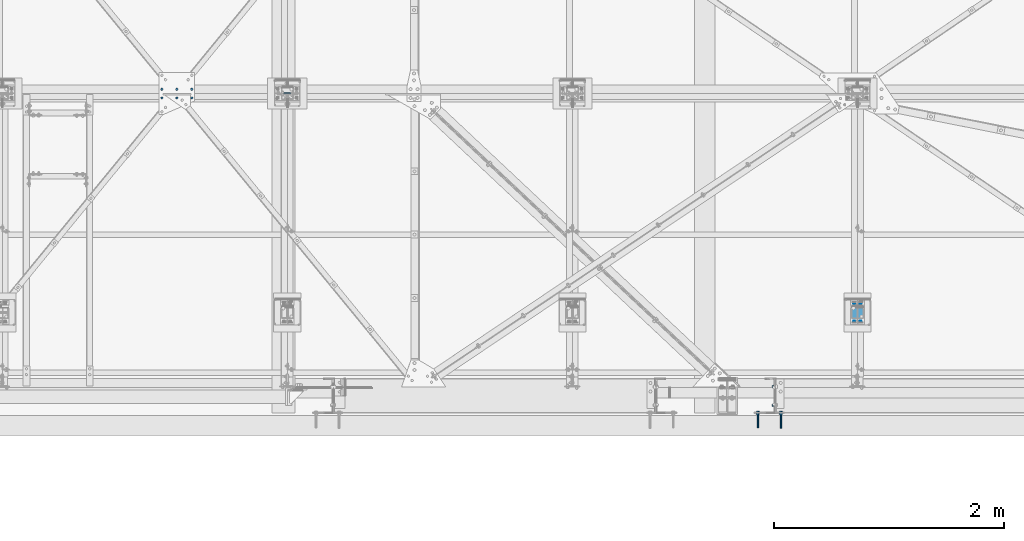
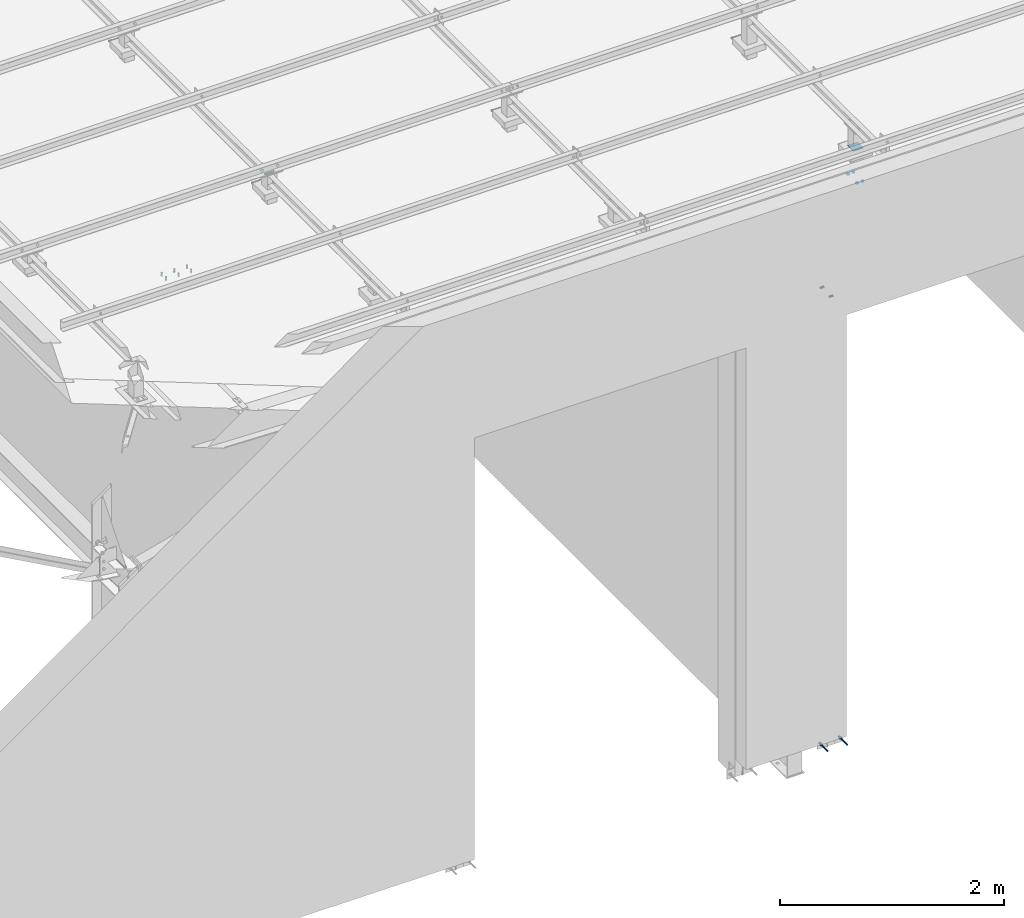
# One storey, part 311 of 3134: 7 mechanical fasteners, 6 elements without a shape of their own.
"""IFC2X3 building model written with IfcOpenShell, lengths in millimetres."""

from ifc_helpers import new_model, si_unit, frame, origin_with_axes, place, context, subcontext, project, spatial, faceted_brep, source, transform, mapped, material, type_object, element, aggregate, save


model = new_model("IFC2X3")

# Units and contexts
model_context = context("Model", 3, precision=1e-05, world=origin_with_axes())
body_context = subcontext(model_context, "Body", "Model", "MODEL_VIEW")
ifc_project = project(units=[si_unit("LENGTHUNIT", "METRE", prefix="MILLI"), si_unit("AREAUNIT", "SQUARE_METRE"), si_unit("VOLUMEUNIT", "CUBIC_METRE"), si_unit("MASSUNIT", "GRAM", prefix="KILO"), si_unit("TIMEUNIT", "SECOND"), si_unit("PLANEANGLEUNIT", "RADIAN"), si_unit("SOLIDANGLEUNIT", "STERADIAN"), si_unit("THERMODYNAMICTEMPERATUREUNIT", "DEGREE_CELSIUS"), si_unit("LUMINOUSINTENSITYUNIT", "LUMEN")], contexts=[model_context])

# Site, building, storey
site_placement = place(None, origin_with_axes())
site = spatial("IfcSite", under=ifc_project, at=site_placement, CompositionType="ELEMENT")
building_placement = place(site_placement, origin_with_axes())
building = spatial("IfcBuilding", under=site, at=building_placement, Name="Undefined", CompositionType="ELEMENT")
storey_placement = place(building_placement, origin_with_axes())
storey = spatial("IfcBuildingStorey", under=building, at=storey_placement, Name="Undefined", CompositionType="ELEMENT", Elevation=0.0)

# Assembly, mechanical fasteners
assembly_1_placement = place(storey_placement, origin_with_axes())
assembly_1 = element("IfcElementAssembly", 1, at=assembly_1_placement, inside=storey, AssemblyPlace="NOTDEFINED", PredefinedType="RIGID_FRAME")
ifc_material_1 = material(Name="HILTI-HSA")
mechanical_fastener_type = type_object("IfcMechanicalFastenerType", Name="Bolt assembly")
shared_shape_1 = source(origin_with_axes(), body_context, "Body", "Brep", [
    faceted_brep([(13.856406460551, -20.56, 0.0), (6.92820323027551, -20.56, 12.0), (-6.92820323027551, -20.56, 12.0), (-13.856406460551, -20.56, 1.69692038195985e-15), (-6.92820323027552, -20.56, -12.0), (6.9282032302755, -20.56, -12.0), (6.9282032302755, -10.0, -12.0), (-6.92820323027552, -10.0, -12.0), (-13.856406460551, -10.0, 1.69692038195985e-15), (-6.92820323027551, -10.0, 12.0), (6.92820323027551, -10.0, 12.0), (13.856406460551, -10.0, 0.0), (8.0, -10.0, 0.0), (6.92820323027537, -10.0, 4.00000000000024), (3.99999999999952, -10.0, 6.92820323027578), (-8.29068785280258e-13, -10.0, 8.0), (-4.00000000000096, -10.0, 6.92820323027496), (-6.9282032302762, -10.0, 3.99999999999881), (-8.0, -10.0, -1.65813757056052e-12), (-6.92820323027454, -10.0, -4.00000000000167), (-3.99999999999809, -10.0, -6.92820323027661), (2.47832457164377e-12, -10.0, -8.0), (4.00000000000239, -10.0, -6.92820323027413), (6.92820323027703, -10.0, -3.99999999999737), (6.92820323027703, 130.0, -3.99999999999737), (4.00000000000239, 130.0, -6.92820323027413), (2.47832457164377e-12, 130.0, -8.0), (-3.99999999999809, 130.0, -6.92820323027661), (-6.92820323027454, 130.0, -4.00000000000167), (-8.0, 130.0, -1.65813757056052e-12), (-6.9282032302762, 130.0, 3.99999999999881), (-4.00000000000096, 130.0, 6.92820323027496), (-8.29068785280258e-13, 130.0, 8.0), (3.99999999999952, 130.0, 6.92820323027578), (6.92820323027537, 130.0, 4.00000000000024), (8.0, 130.0, 0.0), (15.3344231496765, 7.105427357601e-15, 0.0), (7.66721157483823, 7.105427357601e-15, 13.28), (-7.66721157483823, 7.105427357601e-15, 13.28), (-15.3344231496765, 7.105427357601e-15, 1.87792522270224e-15), (-7.66721157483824, 7.105427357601e-15, -13.28), (7.66721157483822, 7.105427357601e-15, -13.28), (7.66721157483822, 10.56, -13.28), (-7.66721157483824, 10.56, -13.28), (-15.3344231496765, 10.56, 1.87792522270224e-15), (-7.66721157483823, 10.56, 13.28), (7.66721157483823, 10.56, 13.28), (15.3344231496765, 10.56, 0.0)], [[[0, 1, 2, 3, 4, 5]], [[6, 7, 8, 9, 10, 11]], [[0, 11, 10, 1]], [[1, 10, 9, 2]], [[2, 9, 8, 3]], [[3, 8, 7, 4]], [[4, 7, 6, 5]], [[5, 6, 11, 0]], [[12, 13, 14, 15, 16, 17, 18, 19, 20, 21, 22, 23]], [[24, 25, 26, 27, 28, 29, 30, 31, 32, 33, 34, 35]], [[12, 35, 34, 13]], [[13, 34, 33, 14]], [[14, 33, 32, 15]], [[15, 32, 31, 16]], [[16, 31, 30, 17]], [[17, 30, 29, 18]], [[18, 29, 28, 19]], [[19, 28, 27, 20]], [[20, 27, 26, 21]], [[21, 26, 25, 22]], [[22, 25, 24, 23]], [[23, 24, 35, 12]], [[36, 37, 38, 39, 40, 41]], [[42, 43, 44, 45, 46, 47]], [[36, 47, 46, 37]], [[37, 46, 45, 38]], [[38, 45, 44, 39]], [[39, 44, 43, 40]], [[40, 43, 42, 41]], [[41, 42, 47, 36]]]),
    faceted_brep([(9.0, -10.0, 0.0), (7.79422863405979, -10.0, 4.50000000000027), (4.49999999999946, -10.0, 7.79422863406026), (-9.3270238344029e-13, -10.0, 9.0), (-4.50000000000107, -10.0, 7.79422863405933), (-7.79422863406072, -10.0, 4.49999999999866), (-9.0, -10.0, -1.86540476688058e-12), (-7.79422863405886, -10.0, -4.50000000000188), (-4.49999999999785, -10.0, -7.79422863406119), (2.78811514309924e-12, -10.0, -9.0), (4.50000000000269, -10.0, -7.7942286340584), (7.79422863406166, -10.0, -4.49999999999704), (7.79422863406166, 0.100000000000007, -4.49999999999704), (4.50000000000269, 0.100000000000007, -7.7942286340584), (2.78811514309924e-12, 0.100000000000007, -9.0), (-4.49999999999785, 0.100000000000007, -7.79422863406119), (-7.79422863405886, 0.100000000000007, -4.50000000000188), (-9.0, 0.100000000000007, -1.86540476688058e-12), (-7.79422863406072, 0.100000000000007, 4.49999999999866), (-4.50000000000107, 0.100000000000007, 7.79422863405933), (-9.3270238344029e-13, 0.100000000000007, 9.0), (4.49999999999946, 0.100000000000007, 7.79422863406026), (7.79422863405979, 0.100000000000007, 4.50000000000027), (9.0, 0.100000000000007, 0.0)], [[[0, 1, 2, 3, 4, 5, 6, 7, 8, 9, 10, 11]], [[12, 13, 14, 15, 16, 17, 18, 19, 20, 21, 22, 23]], [[0, 23, 22, 1]], [[1, 22, 21, 2]], [[2, 21, 20, 3]], [[3, 20, 19, 4]], [[4, 19, 18, 5]], [[5, 18, 17, 6]], [[6, 17, 16, 7]], [[7, 16, 15, 8]], [[8, 15, 14, 9]], [[9, 14, 13, 10]], [[10, 13, 12, 11]], [[11, 12, 23, 0]]]),
])
mechanical_fastener_1_placement = place(assembly_1_placement, frame((74685.0, -225.0, -150.0), z_axis=(0.0, 0.0, -1.0), x_axis=(1.0, 0.0, 0.0)))
mechanical_fastener_1 = element("IfcMechanicalFastener", 2, at=mechanical_fastener_1_placement, type_object=mechanical_fastener_type, material=ifc_material_1, Name="Bolt assembly", NominalDiameter=16.0, NominalLength=140.0, context=body_context, shape_type="MappedRepresentation", body=[
    mapped(shared_shape_1, transform((0.0, 0.0, 0.0))),
])
shared_shape_2 = source(origin_with_axes(), body_context, "Body", "Brep", [
    faceted_brep([(13.856406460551, -18.56, 0.0), (6.92820323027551, -18.56, 12.0), (-6.92820323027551, -18.56, 12.0), (-13.856406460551, -18.56, 1.69692038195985e-15), (-6.92820323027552, -18.56, -12.0), (6.9282032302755, -18.56, -12.0), (6.9282032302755, -7.99999766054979, -12.0), (-6.92820323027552, -7.99999766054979, -12.0), (-13.856406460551, -7.99999766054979, 1.69692038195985e-15), (-6.92820323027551, -7.99999766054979, 12.0), (6.92820323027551, -7.99999766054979, 12.0), (13.856406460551, -7.99999766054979, 0.0), (8.0, -8.0, 0.0), (6.92820323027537, -8.0, 4.00000000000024), (3.99999999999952, -8.0, 6.92820323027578), (-8.29068785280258e-13, -8.0, 8.0), (-4.00000000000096, -8.0, 6.92820323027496), (-6.9282032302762, -8.0, 3.99999999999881), (-8.0, -8.0, -1.65813757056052e-12), (-6.92820323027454, -8.0, -4.00000000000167), (-3.99999999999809, -8.0, -6.92820323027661), (2.47832457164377e-12, -8.0, -8.0), (4.00000000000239, -8.0, -6.92820323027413), (6.92820323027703, -8.0, -3.99999999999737), (6.92820323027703, 132.0, -3.99999999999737), (4.00000000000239, 132.0, -6.92820323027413), (2.47832457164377e-12, 132.0, -8.0), (-3.99999999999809, 132.0, -6.92820323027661), (-6.92820323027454, 132.0, -4.00000000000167), (-8.0, 132.0, -1.65813757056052e-12), (-6.9282032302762, 132.0, 3.99999999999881), (-4.00000000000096, 132.0, 6.92820323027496), (-8.29068785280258e-13, 132.0, 8.0), (3.99999999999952, 132.0, 6.92820323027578), (6.92820323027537, 132.0, 4.00000000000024), (8.0, 132.0, 0.0), (15.3344231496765, 7.105427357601e-15, 0.0), (7.66721157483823, 7.105427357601e-15, 13.28), (-7.66721157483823, 7.105427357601e-15, 13.28), (-15.3344231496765, 7.105427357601e-15, 1.87792522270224e-15), (-7.66721157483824, 7.105427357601e-15, -13.28), (7.66721157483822, 7.105427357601e-15, -13.28), (7.66721157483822, 10.56, -13.28), (-7.66721157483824, 10.56, -13.28), (-15.3344231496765, 10.56, 1.87792522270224e-15), (-7.66721157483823, 10.56, 13.28), (7.66721157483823, 10.56, 13.28), (15.3344231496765, 10.56, 0.0)], [[[0, 1, 2, 3, 4, 5]], [[6, 7, 8, 9, 10, 11]], [[0, 11, 10, 1]], [[1, 10, 9, 2]], [[2, 9, 8, 3]], [[3, 8, 7, 4]], [[4, 7, 6, 5]], [[5, 6, 11, 0]], [[12, 13, 14, 15, 16, 17, 18, 19, 20, 21, 22, 23]], [[24, 25, 26, 27, 28, 29, 30, 31, 32, 33, 34, 35]], [[12, 35, 34, 13]], [[13, 34, 33, 14]], [[14, 33, 32, 15]], [[15, 32, 31, 16]], [[16, 31, 30, 17]], [[17, 30, 29, 18]], [[18, 29, 28, 19]], [[19, 28, 27, 20]], [[20, 27, 26, 21]], [[21, 26, 25, 22]], [[22, 25, 24, 23]], [[23, 24, 35, 12]], [[36, 37, 38, 39, 40, 41]], [[42, 43, 44, 45, 46, 47]], [[36, 47, 46, 37]], [[37, 46, 45, 38]], [[38, 45, 44, 39]], [[39, 44, 43, 40]], [[40, 43, 42, 41]], [[41, 42, 47, 36]]]),
    faceted_brep([(9.0, -8.0, 0.0), (7.79422863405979, -8.0, 4.50000000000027), (4.49999999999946, -8.0, 7.79422863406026), (-9.3270238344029e-13, -8.0, 9.0), (-4.50000000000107, -8.0, 7.79422863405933), (-7.79422863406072, -8.0, 4.49999999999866), (-9.0, -8.0, -1.86540476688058e-12), (-7.79422863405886, -8.0, -4.50000000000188), (-4.49999999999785, -8.0, -7.79422863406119), (2.78811514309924e-12, -8.0, -9.0), (4.50000000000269, -8.0, -7.7942286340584), (7.79422863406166, -8.0, -4.49999999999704), (7.79422863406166, 0.100000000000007, -4.49999999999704), (4.50000000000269, 0.100000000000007, -7.7942286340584), (2.78811514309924e-12, 0.100000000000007, -9.0), (-4.49999999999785, 0.100000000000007, -7.79422863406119), (-7.79422863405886, 0.100000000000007, -4.50000000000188), (-9.0, 0.100000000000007, -1.86540476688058e-12), (-7.79422863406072, 0.100000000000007, 4.49999999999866), (-4.50000000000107, 0.100000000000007, 7.79422863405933), (-9.3270238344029e-13, 0.100000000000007, 9.0), (4.49999999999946, 0.100000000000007, 7.79422863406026), (7.79422863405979, 0.100000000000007, 4.50000000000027), (9.0, 0.100000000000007, 0.0)], [[[0, 1, 2, 3, 4, 5, 6, 7, 8, 9, 10, 11]], [[12, 13, 14, 15, 16, 17, 18, 19, 20, 21, 22, 23]], [[0, 23, 22, 1]], [[1, 22, 21, 2]], [[2, 21, 20, 3]], [[3, 20, 19, 4]], [[4, 19, 18, 5]], [[5, 18, 17, 6]], [[6, 17, 16, 7]], [[7, 16, 15, 8]], [[8, 15, 14, 9]], [[9, 14, 13, 10]], [[10, 13, 12, 11]], [[11, 12, 23, 0]]]),
])
mechanical_fastener_2_placement = place(assembly_1_placement, frame((74885.0, -225.0, -150.0), z_axis=(0.0, 0.0, 1.0), x_axis=(-1.0, 0.0, 0.0)))
mechanical_fastener_2 = element("IfcMechanicalFastener", 3, at=mechanical_fastener_2_placement, type_object=mechanical_fastener_type, material=ifc_material_1, Name="Bolt assembly", NominalDiameter=16.0, NominalLength=140.0, context=body_context, shape_type="MappedRepresentation", body=[
    mapped(shared_shape_2, transform((0.0, 0.0, 0.0))),
])
aggregate(assembly_1, [mechanical_fastener_2, mechanical_fastener_1])

# Assembly, mechanical fastener
assembly_2_placement = place(storey_placement, origin_with_axes())
assembly_2 = element("IfcElementAssembly", 4, at=assembly_2_placement, inside=storey, AssemblyPlace="NOTDEFINED", PredefinedType="RIGID_FRAME")
ifc_material_2 = material(Name="8.8")
shared_shape_3 = source(origin_with_axes(), body_context, "Body", "Brep", [
    faceted_brep([(7.0, 13.0000253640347, 0.0), (6.06217782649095, 13.0000253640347, 3.50000000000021), (3.49999999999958, 13.0000253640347, 6.06217782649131), (-7.25435187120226e-13, 13.0000253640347, 7.0), (-3.50000000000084, 13.0000253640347, 6.06217782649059), (-6.06217782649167, 13.0000253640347, 3.49999999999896), (-7.0, 13.0000253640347, -1.45087037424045e-12), (-6.06217782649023, 13.0000253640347, -3.50000000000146), (-3.49999999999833, 13.0000253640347, -6.06217782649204), (2.1685340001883e-12, 13.0000253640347, -7.0), (3.50000000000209, 13.0000253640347, -6.06217782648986), (6.0621778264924, 13.0000253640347, -3.4999999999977), (6.0621778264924, 15.0999999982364, -3.4999999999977), (3.50000000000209, 15.0999999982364, -6.06217782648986), (2.1685340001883e-12, 15.0999999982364, -7.0), (-3.49999999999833, 15.0999999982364, -6.06217782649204), (-6.06217782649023, 15.0999999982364, -3.50000000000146), (-7.0, 15.0999999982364, -1.45087037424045e-12), (-6.06217782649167, 15.0999999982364, 3.49999999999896), (-3.50000000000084, 15.0999999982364, 6.06217782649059), (-7.25435187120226e-13, 15.0999999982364, 7.0), (3.49999999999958, 15.0999999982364, 6.06217782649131), (6.06217782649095, 15.0999999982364, 3.50000000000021), (7.0, 15.0999999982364, 0.0)], [[[0, 1, 2, 3, 4, 5, 6, 7, 8, 9, 10, 11]], [[12, 13, 14, 15, 16, 17, 18, 19, 20, 21, 22, 23]], [[0, 23, 22, 1]], [[1, 22, 21, 2]], [[2, 21, 20, 3]], [[3, 20, 19, 4]], [[4, 19, 18, 5]], [[5, 18, 17, 6]], [[6, 17, 16, 7]], [[7, 16, 15, 8]], [[8, 15, 14, 9]], [[9, 14, 13, 10]], [[10, 13, 12, 11]], [[11, 12, 23, 0]]]),
])
mechanical_fastener_3_placement = place(assembly_2_placement, frame((75521.3602034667, 649.998364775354, 5179.86493090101), z_axis=(0.0, -1.0, 0.0), x_axis=(0.999519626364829, 0.0, -0.030992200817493)))
mechanical_fastener_3 = element("IfcMechanicalFastener", 5, at=mechanical_fastener_3_placement, type_object=mechanical_fastener_type, material=ifc_material_2, Name="Bolt assembly", NominalDiameter=12.0, NominalLength=2.0, context=body_context, shape_type="MappedRepresentation", body=[
    mapped(shared_shape_3, transform((0.0, -5.32963895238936e-10, -79.9999999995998))),
    mapped(shared_shape_3, transform((55.9999999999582, 4.54747350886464e-13, -80.0))),
    mapped(shared_shape_3, transform((0.0, 5.3114490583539e-10, 79.9999999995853))),
    mapped(shared_shape_3, transform((55.9999999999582, 4.54747350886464e-13, 80.0))),
])
aggregate(assembly_2, [mechanical_fastener_3])

assembly_3_placement = place(storey_placement, origin_with_axes())
assembly_3 = element("IfcElementAssembly", 6, at=assembly_3_placement, inside=storey, AssemblyPlace="NOTDEFINED", PredefinedType="RIGID_FRAME")
shared_shape_4 = source(origin_with_axes(), body_context, "Body", "Brep", [
    faceted_brep([(9.0, -50.0, 0.0), (7.79422863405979, -50.0, 4.50000000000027), (4.49999999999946, -50.0, 7.79422863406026), (-9.3270238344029e-13, -50.0, 9.0), (-4.50000000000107, -50.0, 7.79422863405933), (-7.79422863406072, -50.0, 4.49999999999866), (-9.0, -50.0, -1.86540476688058e-12), (-7.79422863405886, -50.0, -4.50000000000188), (-4.49999999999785, -50.0, -7.79422863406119), (2.78811514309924e-12, -50.0, -9.0), (4.50000000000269, -50.0, -7.7942286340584), (7.79422863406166, -50.0, -4.49999999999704), (7.79422863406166, 50.1, -4.49999999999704), (4.50000000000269, 50.1, -7.7942286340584), (2.78811514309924e-12, 50.1, -9.0), (-4.49999999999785, 50.1, -7.79422863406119), (-7.79422863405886, 50.1, -4.50000000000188), (-9.0, 50.1, -1.86540476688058e-12), (-7.79422863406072, 50.1, 4.49999999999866), (-4.50000000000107, 50.1, 7.79422863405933), (-9.3270238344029e-13, 50.1, 9.0), (4.49999999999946, 50.1, 7.79422863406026), (7.79422863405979, 50.1, 4.50000000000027), (9.0, 50.1, 0.0)], [[[0, 1, 2, 3, 4, 5, 6, 7, 8, 9, 10, 11]], [[12, 13, 14, 15, 16, 17, 18, 19, 20, 21, 22, 23]], [[0, 23, 22, 1]], [[1, 22, 21, 2]], [[2, 21, 20, 3]], [[3, 20, 19, 4]], [[4, 19, 18, 5]], [[5, 18, 17, 6]], [[6, 17, 16, 7]], [[7, 16, 15, 8]], [[8, 15, 14, 9]], [[9, 14, 13, 10]], [[10, 13, 12, 11]], [[11, 12, 23, 0]]]),
])
mechanical_fastener_4_placement = place(assembly_3_placement, frame((70600.0, 2550.0, 5830.0), z_axis=(0.0, 1.0, 0.0), x_axis=(0.0, 0.0, 1.0)))
mechanical_fastener_4 = element("IfcMechanicalFastener", 7, at=mechanical_fastener_4_placement, type_object=mechanical_fastener_type, material=ifc_material_2, Name="Bolt assembly", NominalDiameter=16.0, NominalLength=100.0, context=body_context, shape_type="MappedRepresentation", body=[
    mapped(shared_shape_4, transform((0.0, 0.0, 0.0))),
])
aggregate(assembly_3, [mechanical_fastener_4])

assembly_4_placement = place(storey_placement, origin_with_axes())
assembly_4 = element("IfcElementAssembly", 8, at=assembly_4_placement, inside=storey, AssemblyPlace="NOTDEFINED", PredefinedType="RIGID_FRAME")
ifc_material_3 = material(Name="6.8")
shared_shape_5 = source(origin_with_axes(), body_context, "Body", "Brep", [
    faceted_brep([(51.5, 1.36424205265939e-12, 50.0), (51.3858192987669, 1.36424205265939e-12, 50.5740251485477), (51.0606601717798, 1.36424205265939e-12, 51.0606601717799), (50.5740251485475, 1.36424205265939e-12, 51.385819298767), (-50.0000000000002, 1.36424205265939e-12, 51.5), (-50.7500000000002, 1.36424205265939e-12, 51.2990381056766), (-51.2990381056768, 1.36424205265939e-12, 50.7499999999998), (-51.5, 1.36424205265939e-12, 49.9999999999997), (-51.5, 1.36424205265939e-12, -50.0000000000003), (-51.2990381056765, 1.36424205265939e-12, -50.7500000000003), (-50.7499999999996, 1.36424205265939e-12, -51.2990381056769), (-49.9999999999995, 1.36424205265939e-12, -51.5), (50.0000000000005, 1.36424205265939e-12, -51.5), (50.7500000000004, 1.36424205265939e-12, -51.2990381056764), (51.2990381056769, 1.36424205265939e-12, -50.7499999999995), (51.5, 1.36424205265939e-12, -49.9999999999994), (51.5, 5.10000000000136, -49.9999999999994), (51.2990381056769, 5.10000000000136, -50.7499999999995), (50.7500000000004, 5.10000000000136, -51.2990381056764), (50.0000000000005, 5.10000000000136, -51.5), (-49.9999999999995, 5.10000000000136, -51.5), (-50.7499999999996, 5.10000000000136, -51.2990381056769), (-51.2990381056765, 5.10000000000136, -50.7500000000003), (-51.5, 5.10000000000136, -50.0000000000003), (-51.5, 5.10000000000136, 49.9999999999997), (-51.2990381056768, 5.10000000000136, 50.7499999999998), (-50.7500000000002, 5.10000000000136, 51.2990381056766), (-50.0000000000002, 5.10000000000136, 51.5), (50.5740251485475, 5.10000000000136, 51.385819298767), (51.0606601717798, 5.10000000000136, 51.0606601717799), (51.3858192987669, 5.10000000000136, 50.5740251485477), (51.5, 5.10000000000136, 50.0)], [[[0, 1, 2, 3, 4, 5, 6, 7, 8, 9, 10, 11, 12, 13, 14, 15]], [[16, 17, 18, 19, 20, 21, 22, 23, 24, 25, 26, 27, 28, 29, 30, 31]], [[0, 31, 30, 1]], [[1, 30, 29, 2]], [[2, 29, 28, 3]], [[3, 28, 27, 4]], [[4, 27, 26, 5]], [[5, 26, 25, 6]], [[6, 25, 24, 7]], [[7, 24, 23, 8]], [[8, 23, 22, 9]], [[9, 22, 21, 10]], [[10, 21, 20, 11]], [[11, 20, 19, 12]], [[12, 19, 18, 13]], [[13, 18, 17, 14]], [[14, 17, 16, 15]], [[15, 16, 31, 0]]]),
])
mechanical_fastener_5_placement = place(assembly_4_placement, frame((75550.0, 650.0, 5533.71), z_axis=(0.0, -1.0, 0.0), x_axis=(-1.0, 0.0, 0.0)))
mechanical_fastener_5 = element("IfcMechanicalFastener", 9, at=mechanical_fastener_5_placement, type_object=mechanical_fastener_type, material=ifc_material_3, Name="Bolt assembly", NominalDiameter=10.0, NominalLength=5.0, context=body_context, shape_type="MappedRepresentation", body=[
    mapped(shared_shape_5, transform((0.0, 0.0, 0.0))),
])
aggregate(assembly_4, [mechanical_fastener_5])

assembly_5_placement = place(storey_placement, origin_with_axes())
assembly_5 = element("IfcElementAssembly", 10, at=assembly_5_placement, inside=storey, AssemblyPlace="NOTDEFINED", PredefinedType="RIGID_FRAME")
shared_shape_6 = source(origin_with_axes(), body_context, "Body", "Brep", [
    faceted_brep([(13.856406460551, -16.0, 0.0), (6.92820323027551, -16.0, 12.0), (-6.92820323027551, -16.0, 12.0), (-13.856406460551, -16.0, 1.69692038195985e-15), (-6.92820323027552, -16.0, -12.0), (6.9282032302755, -16.0, -12.0), (6.9282032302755, -6.0, -12.0), (-6.92820323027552, -6.0, -12.0), (-13.856406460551, -6.0, 1.69692038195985e-15), (-6.92820323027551, -6.0, 12.0), (6.92820323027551, -6.0, 12.0), (13.856406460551, -6.0, 0.0), (8.0, -6.0, 0.0), (6.92820323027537, -6.0, 4.00000000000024), (3.99999999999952, -6.0, 6.92820323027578), (-8.29068785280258e-13, -6.0, 8.0), (-4.00000000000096, -6.0, 6.92820323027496), (-6.9282032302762, -6.0, 3.99999999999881), (-8.0, -6.0, -1.65813757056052e-12), (-6.92820323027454, -6.0, -4.00000000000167), (-3.99999999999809, -6.0, -6.92820323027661), (2.47832457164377e-12, -6.0, -8.0), (4.00000000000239, -6.0, -6.92820323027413), (6.92820323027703, -6.0, -3.99999999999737), (6.92820323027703, 23.9999999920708, -3.99999999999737), (4.00000000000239, 23.9999999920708, -6.92820323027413), (2.47832457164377e-12, 23.9999999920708, -8.0), (-3.99999999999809, 23.9999999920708, -6.92820323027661), (-6.92820323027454, 23.9999999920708, -4.00000000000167), (-8.0, 23.9999999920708, -1.65813757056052e-12), (-6.9282032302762, 23.9999999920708, 3.99999999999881), (-4.00000000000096, 23.9999999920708, 6.92820323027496), (-8.29068785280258e-13, 23.9999999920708, 8.0), (3.99999999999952, 23.9999999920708, 6.92820323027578), (6.92820323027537, 23.9999999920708, 4.00000000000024), (8.0, 23.9999999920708, 0.0), (13.856406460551, 5.00000004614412, 0.0), (6.92820323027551, 5.00000004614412, 12.0), (-6.92820323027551, 5.00000004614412, 12.0), (-13.856406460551, 5.00000004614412, 1.69692038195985e-15), (-6.92820323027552, 5.00000004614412, -12.0), (6.9282032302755, 5.00000004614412, -12.0), (6.9282032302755, 18.000000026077, -12.0), (-6.92820323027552, 18.000000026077, -12.0), (-13.856406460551, 18.000000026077, 1.69692038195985e-15), (-6.92820323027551, 18.000000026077, 12.0), (6.92820323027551, 18.000000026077, 12.0), (13.856406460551, 18.000000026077, 0.0)], [[[0, 1, 2, 3, 4, 5]], [[6, 7, 8, 9, 10, 11]], [[0, 11, 10, 1]], [[1, 10, 9, 2]], [[2, 9, 8, 3]], [[3, 8, 7, 4]], [[4, 7, 6, 5]], [[5, 6, 11, 0]], [[12, 13, 14, 15, 16, 17, 18, 19, 20, 21, 22, 23]], [[24, 25, 26, 27, 28, 29, 30, 31, 32, 33, 34, 35]], [[12, 35, 34, 13]], [[13, 34, 33, 14]], [[14, 33, 32, 15]], [[15, 32, 31, 16]], [[16, 31, 30, 17]], [[17, 30, 29, 18]], [[18, 29, 28, 19]], [[19, 28, 27, 20]], [[20, 27, 26, 21]], [[21, 26, 25, 22]], [[22, 25, 24, 23]], [[23, 24, 35, 12]], [[36, 37, 38, 39, 40, 41]], [[42, 43, 44, 45, 46, 47]], [[36, 47, 46, 37]], [[37, 46, 45, 38]], [[38, 45, 44, 39]], [[39, 44, 43, 40]], [[40, 43, 42, 41]], [[41, 42, 47, 36]]]),
    faceted_brep([(9.0, -0.1, 0.0), (7.79422863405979, -0.1, 4.50000000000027), (4.49999999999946, -0.1, 7.79422863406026), (-9.3270238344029e-13, -0.1, 9.0), (-4.50000000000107, -0.1, 7.79422863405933), (-7.79422863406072, -0.1, 4.49999999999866), (-9.0, -0.1, -1.86540476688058e-12), (-7.79422863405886, -0.1, -4.50000000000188), (-4.49999999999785, -0.1, -7.79422863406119), (2.78811514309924e-12, -0.1, -9.0), (4.50000000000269, -0.1, -7.7942286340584), (7.79422863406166, -0.1, -4.49999999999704), (7.79422863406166, 4.99999989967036, -4.49999999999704), (4.50000000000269, 4.99999989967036, -7.7942286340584), (2.78811514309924e-12, 4.99999989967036, -9.0), (-4.49999999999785, 4.99999989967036, -7.79422863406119), (-7.79422863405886, 4.99999989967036, -4.50000000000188), (-9.0, 4.99999989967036, -1.86540476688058e-12), (-7.79422863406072, 4.99999989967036, 4.49999999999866), (-4.50000000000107, 4.99999989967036, 7.79422863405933), (-9.3270238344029e-13, 4.99999989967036, 9.0), (4.49999999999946, 4.99999989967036, 7.79422863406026), (7.79422863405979, 4.99999989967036, 4.50000000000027), (9.0, 4.99999989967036, 0.0), (9.0, -5.9, 0.0), (7.79422863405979, -5.9, 4.50000000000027), (4.49999999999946, -5.9, 7.79422863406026), (-9.3270238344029e-13, -5.9, 9.0), (-4.50000000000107, -5.9, 7.79422863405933), (-7.79422863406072, -5.9, 4.49999999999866), (-9.0, -5.9, -1.86540476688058e-12), (-7.79422863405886, -5.9, -4.50000000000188), (-4.49999999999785, -5.9, -7.79422863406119), (2.78811514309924e-12, -5.9, -9.0), (4.50000000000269, -5.9, -7.7942286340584), (7.79422863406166, -5.9, -4.49999999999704), (7.79422863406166, 0.100000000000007, -4.49999999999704), (4.50000000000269, 0.100000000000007, -7.7942286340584), (2.78811514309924e-12, 0.100000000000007, -9.0), (-4.49999999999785, 0.100000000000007, -7.79422863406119), (-7.79422863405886, 0.100000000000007, -4.50000000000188), (-9.0, 0.100000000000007, -1.86540476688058e-12), (-7.79422863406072, 0.100000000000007, 4.49999999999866), (-4.50000000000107, 0.100000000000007, 7.79422863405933), (-9.3270238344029e-13, 0.100000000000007, 9.0), (4.49999999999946, 0.100000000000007, 7.79422863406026), (7.79422863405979, 0.100000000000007, 4.50000000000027), (9.0, 0.100000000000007, 0.0)], [[[0, 1, 2, 3, 4, 5, 6, 7, 8, 9, 10, 11]], [[12, 13, 14, 15, 16, 17, 18, 19, 20, 21, 22, 23]], [[0, 23, 22, 1]], [[1, 22, 21, 2]], [[2, 21, 20, 3]], [[3, 20, 19, 4]], [[4, 19, 18, 5]], [[5, 18, 17, 6]], [[6, 17, 16, 7]], [[7, 16, 15, 8]], [[8, 15, 14, 9]], [[9, 14, 13, 10]], [[10, 13, 12, 11]], [[11, 12, 23, 0]], [[24, 25, 26, 27, 28, 29, 30, 31, 32, 33, 34, 35]], [[36, 37, 38, 39, 40, 41, 42, 43, 44, 45, 46, 47]], [[24, 47, 46, 25]], [[25, 46, 45, 26]], [[26, 45, 44, 27]], [[27, 44, 43, 28]], [[28, 43, 42, 29]], [[29, 42, 41, 30]], [[30, 41, 40, 31]], [[31, 40, 39, 32]], [[32, 39, 38, 33]], [[33, 38, 37, 34]], [[34, 37, 36, 35]], [[35, 36, 47, 24]]]),
])
mechanical_fastener_6_placement = place(assembly_5_placement, frame((74835.0, -75.0, 4640.0), z_axis=(0.0, -1.0, 0.0), x_axis=(0.0, 0.0, 1.0)))
mechanical_fastener_6 = element("IfcMechanicalFastener", 11, at=mechanical_fastener_6_placement, type_object=mechanical_fastener_type, material=ifc_material_2, Name="Bolt assembly", NominalDiameter=16.0, NominalLength=30.0, context=body_context, shape_type="MappedRepresentation", body=[
    mapped(shared_shape_6, transform((0.0, -5.32963895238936e-10, -79.9999999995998))),
    mapped(shared_shape_6, transform((0.0, 5.3114490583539e-10, 79.9999999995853))),
])
aggregate(assembly_5, [mechanical_fastener_6])

assembly_6_placement = place(storey_placement, origin_with_axes())
assembly_6 = element("IfcElementAssembly", 12, at=assembly_6_placement, inside=storey, Name="300", AssemblyPlace="NOTDEFINED", PredefinedType="RIGID_FRAME")
shared_shape_7 = source(origin_with_axes(), body_context, "Body", "Brep", [
    faceted_brep([(10.9696551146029, -21.2000017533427, 0.0), (5.48482755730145, -21.2000017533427, 9.5), (-5.48482755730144, -21.2000017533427, 9.5), (-10.9696551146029, -21.2000017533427, 1.34339530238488e-15), (-5.48482755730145, -21.2000017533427, -9.5), (5.48482755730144, -21.2000017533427, -9.50000000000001), (5.48482755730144, -13.2000017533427, -9.50000000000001), (-5.48482755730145, -13.2000017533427, -9.5), (-10.9696551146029, -13.2000017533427, 1.34339530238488e-15), (-5.48482755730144, -13.2000017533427, 9.5), (5.48482755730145, -13.2000017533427, 9.5), (10.9696551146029, -13.2000017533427, 0.0), (6.0, -13.2000017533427, 0.0), (5.19615242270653, -13.2000017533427, 3.00000000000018), (2.99999999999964, -13.2000017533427, 5.19615242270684), (-6.21801588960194e-13, -13.2000017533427, 6.0), (-3.00000000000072, -13.2000017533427, 5.19615242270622), (-5.19615242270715, -13.2000017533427, 2.9999999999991), (-6.0, -13.2000017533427, -1.24360317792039e-12), (-5.19615242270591, -13.2000017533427, -3.00000000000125), (-2.99999999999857, -13.2000017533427, -5.19615242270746), (1.85874342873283e-12, -13.2000017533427, -6.0), (3.00000000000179, -13.2000017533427, -5.1961524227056), (5.19615242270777, -13.2000017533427, -2.99999999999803), (5.19615242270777, 21.7999982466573, -2.99999999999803), (3.00000000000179, 21.7999982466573, -5.1961524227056), (1.85874342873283e-12, 21.7999982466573, -6.0), (-2.99999999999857, 21.7999982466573, -5.19615242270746), (-5.19615242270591, 21.7999982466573, -3.00000000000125), (-6.0, 21.7999982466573, -1.24360317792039e-12), (-5.19615242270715, 21.7999982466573, 2.9999999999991), (-3.00000000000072, 21.7999982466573, 5.19615242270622), (-6.21801588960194e-13, 21.7999982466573, 6.0), (2.99999999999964, 21.7999982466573, 5.19615242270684), (5.19615242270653, 21.7999982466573, 3.00000000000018), (6.0, 21.7999982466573, 0.0), (10.9696551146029, 4.00000000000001, 0.0), (5.48482755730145, 4.00000000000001, 9.5), (-5.48482755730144, 4.00000000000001, 9.5), (-10.9696551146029, 4.00000000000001, 1.34339530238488e-15), (-5.48482755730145, 4.00000000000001, -9.5), (5.48482755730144, 4.00000000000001, -9.50000000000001), (5.48482755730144, 14.0, -9.50000000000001), (-5.48482755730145, 14.0, -9.5), (-10.9696551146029, 14.0, 1.34339530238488e-15), (-5.48482755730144, 14.0, 9.5), (5.48482755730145, 14.0, 9.5), (10.9696551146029, 14.0, 0.0)], [[[0, 1, 2, 3, 4, 5]], [[6, 7, 8, 9, 10, 11]], [[0, 11, 10, 1]], [[1, 10, 9, 2]], [[2, 9, 8, 3]], [[3, 8, 7, 4]], [[4, 7, 6, 5]], [[5, 6, 11, 0]], [[12, 13, 14, 15, 16, 17, 18, 19, 20, 21, 22, 23]], [[24, 25, 26, 27, 28, 29, 30, 31, 32, 33, 34, 35]], [[12, 35, 34, 13]], [[13, 34, 33, 14]], [[14, 33, 32, 15]], [[15, 32, 31, 16]], [[16, 31, 30, 17]], [[17, 30, 29, 18]], [[18, 29, 28, 19]], [[19, 28, 27, 20]], [[20, 27, 26, 21]], [[21, 26, 25, 22]], [[22, 25, 24, 23]], [[23, 24, 35, 12]], [[36, 37, 38, 39, 40, 41]], [[42, 43, 44, 45, 46, 47]], [[36, 47, 46, 37]], [[37, 46, 45, 38]], [[38, 45, 44, 39]], [[39, 44, 43, 40]], [[40, 43, 42, 41]], [[41, 42, 47, 36]]]),
    faceted_brep([(7.0, -4.09998541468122, 0.0), (6.06217782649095, -4.09998541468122, 3.50000000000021), (3.49999999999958, -4.09998541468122, 6.06217782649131), (-7.25435187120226e-13, -4.09998541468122, 7.0), (-3.50000000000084, -4.09998541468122, 6.06217782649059), (-6.06217782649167, -4.09998541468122, 3.49999999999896), (-7.0, -4.09998541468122, -1.45087037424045e-12), (-6.06217782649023, -4.09998541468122, -3.50000000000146), (-3.49999999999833, -4.09998541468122, -6.06217782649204), (2.1685340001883e-12, -4.09998541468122, -7.0), (3.50000000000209, -4.09998541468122, -6.06217782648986), (6.0621778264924, -4.09998541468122, -3.4999999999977), (6.0621778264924, 4.00000000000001, -3.4999999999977), (3.50000000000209, 4.00000000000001, -6.06217782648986), (2.1685340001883e-12, 4.00000000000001, -7.0), (-3.49999999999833, 4.00000000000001, -6.06217782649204), (-6.06217782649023, 4.00000000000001, -3.50000000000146), (-7.0, 4.00000000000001, -1.45087037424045e-12), (-6.06217782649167, 4.00000000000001, 3.49999999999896), (-3.50000000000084, 4.00000000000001, 6.06217782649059), (-7.25435187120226e-13, 4.00000000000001, 7.0), (3.49999999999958, 4.00000000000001, 6.06217782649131), (6.06217782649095, 4.00000000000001, 3.50000000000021), (7.0, 4.00000000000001, 0.0), (7.0, -13.1000017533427, 0.0), (6.06217782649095, -13.1000017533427, 3.50000000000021), (3.49999999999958, -13.1000017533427, 6.06217782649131), (-7.25435187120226e-13, -13.1000017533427, 7.0), (-3.50000000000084, -13.1000017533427, 6.06217782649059), (-6.06217782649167, -13.1000017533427, 3.49999999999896), (-7.0, -13.1000017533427, -1.45087037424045e-12), (-6.06217782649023, -13.1000017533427, -3.50000000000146), (-3.49999999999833, -13.1000017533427, -6.06217782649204), (2.1685340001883e-12, -13.1000017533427, -7.0), (3.50000000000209, -13.1000017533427, -6.06217782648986), (6.0621778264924, -13.1000017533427, -3.4999999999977), (6.0621778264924, -3.9, -3.4999999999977), (3.50000000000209, -3.9, -6.06217782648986), (2.1685340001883e-12, -3.9, -7.0), (-3.49999999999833, -3.9, -6.06217782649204), (-6.06217782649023, -3.9, -3.50000000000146), (-7.0, -3.9, -1.45087037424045e-12), (-6.06217782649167, -3.9, 3.49999999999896), (-3.50000000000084, -3.9, 6.06217782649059), (-7.25435187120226e-13, -3.9, 7.0), (3.49999999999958, -3.9, 6.06217782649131), (6.06217782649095, -3.9, 3.50000000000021), (7.0, -3.9, 0.0)], [[[0, 1, 2, 3, 4, 5, 6, 7, 8, 9, 10, 11]], [[12, 13, 14, 15, 16, 17, 18, 19, 20, 21, 22, 23]], [[0, 23, 22, 1]], [[1, 22, 21, 2]], [[2, 21, 20, 3]], [[3, 20, 19, 4]], [[4, 19, 18, 5]], [[5, 18, 17, 6]], [[6, 17, 16, 7]], [[7, 16, 15, 8]], [[8, 15, 14, 9]], [[9, 14, 13, 10]], [[10, 13, 12, 11]], [[11, 12, 23, 0]], [[24, 25, 26, 27, 28, 29, 30, 31, 32, 33, 34, 35]], [[36, 37, 38, 39, 40, 41, 42, 43, 44, 45, 46, 47]], [[24, 47, 46, 25]], [[25, 46, 45, 26]], [[26, 45, 44, 27]], [[27, 44, 43, 28]], [[28, 43, 42, 29]], [[29, 42, 41, 30]], [[30, 41, 40, 31]], [[31, 40, 39, 32]], [[32, 39, 38, 33]], [[33, 38, 37, 34]], [[34, 37, 36, 35]], [[35, 36, 47, 24]]]),
])
mechanical_fastener_7_placement = place(assembly_6_placement, frame((69770.7192451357, 2550.00000005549, 5070.01313841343), z_axis=(0.0, -1.0, 0.0), x_axis=(-0.999519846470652, 0.0, 0.0309851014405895)))
mechanical_fastener_7 = element("IfcMechanicalFastener", 13, at=mechanical_fastener_7_placement, type_object=mechanical_fastener_type, material=ifc_material_2, Name="Bolt assembly", NominalDiameter=12.0, NominalLength=35.0, context=body_context, shape_type="MappedRepresentation", body=[
    mapped(shared_shape_7, transform((0.0, 0.0, -38.0))),
    mapped(shared_shape_7, transform((129.999999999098, -1.0113581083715e-09, -37.9999999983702))),
    mapped(shared_shape_7, transform((259.999999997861, -2.11548467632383e-09, -37.9999999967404))),
    mapped(shared_shape_7, transform((0.0, 0.0, 38.0))),
    mapped(shared_shape_7, transform((129.999999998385, -1.19325704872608e-09, 38.0000000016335))),
    mapped(shared_shape_7, transform((259.999999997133, -2.29920260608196e-09, 38.0000000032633))),
])
aggregate(assembly_6, [mechanical_fastener_7])

save(model, "model.ifc")
